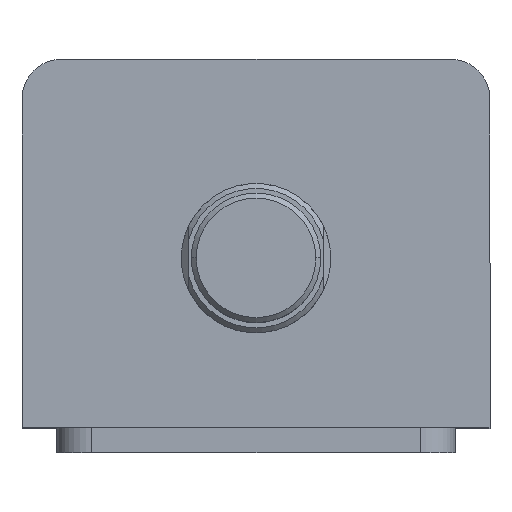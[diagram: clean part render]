
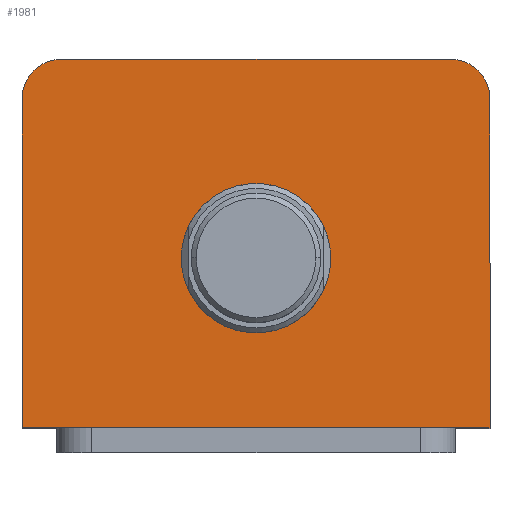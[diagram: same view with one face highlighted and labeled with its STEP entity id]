
A CAD part, top view. The second image highlights one B-rep face of the part: STEP entity #1981.
In plain terms, the highlighted planar face has unit normal (0, 0, 1).
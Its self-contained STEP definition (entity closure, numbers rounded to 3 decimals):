
#96 = CARTESIAN_POINT ( 'NONE',  ( 39., 37., 130. ) ) ;
#98 = CARTESIAN_POINT ( 'NONE',  ( -39., 37., 130. ) ) ;
#113 = CARTESIAN_POINT ( 'NONE',  ( -47., 29., 130. ) ) ;
#137 = CARTESIAN_POINT ( 'NONE',  ( -47., -37., 130. ) ) ;
#149 = CARTESIAN_POINT ( 'NONE',  ( 47., -37., 130. ) ) ;
#151 = CARTESIAN_POINT ( 'NONE',  ( 15., -3., 130. ) ) ;
#158 = CARTESIAN_POINT ( 'NONE',  ( 47., 29., 130. ) ) ;
#365 = CARTESIAN_POINT ( 'NONE',  ( 0., -3., 130. ) ) ;
#366 = DIRECTION ( 'NONE',  ( 0., 0., 1. ) ) ;
#367 = DIRECTION ( 'NONE',  ( 1., 0., 0. ) ) ;
#418 = CARTESIAN_POINT ( 'NONE',  ( 47., 37., 130. ) ) ;
#419 = DIRECTION ( 'NONE',  ( 0., 1., 0. ) ) ;
#559 = DIRECTION ( 'NONE',  ( 1., 0., 0. ) ) ;
#560 = DIRECTION ( 'NONE',  ( 0., 0., 1. ) ) ;
#561 = CARTESIAN_POINT ( 'NONE',  ( -39., 29., 130. ) ) ;
#584 = CARTESIAN_POINT ( 'NONE',  ( -47., 37., 130. ) ) ;
#613 = DIRECTION ( 'NONE',  ( 1., 0., 0. ) ) ;
#614 = DIRECTION ( 'NONE',  ( 0., 0., 1. ) ) ;
#616 = CARTESIAN_POINT ( 'NONE',  ( 39., 29., 130. ) ) ;
#617 = DIRECTION ( 'NONE',  ( -1., 0., 0. ) ) ;
#677 = LINE ( 'NONE', #2880, #3032 ) ;
#699 = EDGE_CURVE ( 'NONE', #2021, #2022, #1308, .T. ) ;
#712 = EDGE_CURVE ( 'NONE', #2104, #2021, #1367, .T. ) ;
#722 = EDGE_CURVE ( 'NONE', #2022, #2044, #1400, .T. ) ;
#728 = EDGE_CURVE ( 'NONE', #2079, #2093, #1391, .T. ) ;
#782 = EDGE_CURVE ( 'NONE', #2044, #2079, #677, .T. ) ;
#791 = EDGE_CURVE ( 'NONE', #2103, #1237, #1162, .T. ) ;
#835 = AXIS2_PLACEMENT_3D ( 'NONE', #616, #614, #613 ) ;
#843 = AXIS2_PLACEMENT_3D ( 'NONE', #561, #560, #559 ) ;
#870 = AXIS2_PLACEMENT_3D ( 'NONE', #2392, #2388, #2384 ) ;
#981 = AXIS2_PLACEMENT_3D ( 'NONE', #2147, #2139, #2138 ) ;
#1037 = AXIS2_PLACEMENT_3D ( 'NONE', #365, #366, #367 ) ;
#1162 = CIRCLE ( 'NONE', #870, 15. ) ;
#1237 = VERTEX_POINT ( 'NONE', #2231 ) ;
#1304 = VECTOR ( 'NONE', #617, 1000. ) ;
#1308 = LINE ( 'NONE', #584, #1304 ) ;
#1367 = CIRCLE ( 'NONE', #835, 8. ) ;
#1388 = VECTOR ( 'NONE', #3003, 1000. ) ;
#1391 = LINE ( 'NONE', #3008, #1388 ) ;
#1400 = CIRCLE ( 'NONE', #843, 8. ) ;
#1588 = FACE_BOUND ( 'NONE', #2496, .T. ) ;
#1595 = FACE_OUTER_BOUND ( 'NONE', #2497, .T. ) ;
#1698 = CIRCLE ( 'NONE', #1037, 15. ) ;
#1737 = LINE ( 'NONE', #418, #1740 ) ;
#1740 = VECTOR ( 'NONE', #419, 1000. ) ;
#1981 = ADVANCED_FACE ( 'NONE', ( #1588, #1595 ), #2152, .T. ) ;
#2021 = VERTEX_POINT ( 'NONE', #96 ) ;
#2022 = VERTEX_POINT ( 'NONE', #98 ) ;
#2044 = VERTEX_POINT ( 'NONE', #113 ) ;
#2079 = VERTEX_POINT ( 'NONE', #137 ) ;
#2093 = VERTEX_POINT ( 'NONE', #149 ) ;
#2103 = VERTEX_POINT ( 'NONE', #151 ) ;
#2104 = VERTEX_POINT ( 'NONE', #158 ) ;
#2138 = DIRECTION ( 'NONE',  ( 1., 0., 0. ) ) ;
#2139 = DIRECTION ( 'NONE',  ( 0., 0., 1. ) ) ;
#2147 = CARTESIAN_POINT ( 'NONE',  ( 0., 0., 130. ) ) ;
#2152 = PLANE ( 'NONE',  #981 ) ;
#2231 = CARTESIAN_POINT ( 'NONE',  ( -15., -3., 130. ) ) ;
#2384 = DIRECTION ( 'NONE',  ( 1., 0., 0. ) ) ;
#2388 = DIRECTION ( 'NONE',  ( 0., 0., 1. ) ) ;
#2392 = CARTESIAN_POINT ( 'NONE',  ( 0., -3., 130. ) ) ;
#2476 = DIRECTION ( 'NONE',  ( 0., -1., 0. ) ) ;
#2496 = EDGE_LOOP ( 'NONE', ( #2761, #2760 ) ) ;
#2497 = EDGE_LOOP ( 'NONE', ( #2759, #2758, #2757, #2756, #2755, #2754 ) ) ;
#2754 = ORIENTED_EDGE ( 'NONE', *, *, #712, .T. ) ;
#2755 = ORIENTED_EDGE ( 'NONE', *, *, #3115, .T. ) ;
#2756 = ORIENTED_EDGE ( 'NONE', *, *, #728, .T. ) ;
#2757 = ORIENTED_EDGE ( 'NONE', *, *, #782, .T. ) ;
#2758 = ORIENTED_EDGE ( 'NONE', *, *, #722, .T. ) ;
#2759 = ORIENTED_EDGE ( 'NONE', *, *, #699, .T. ) ;
#2760 = ORIENTED_EDGE ( 'NONE', *, *, #3091, .F. ) ;
#2761 = ORIENTED_EDGE ( 'NONE', *, *, #791, .F. ) ;
#2880 = CARTESIAN_POINT ( 'NONE',  ( -47., 37., 130. ) ) ;
#3003 = DIRECTION ( 'NONE',  ( 1., 0., 0. ) ) ;
#3008 = CARTESIAN_POINT ( 'NONE',  ( -47., -37., 130. ) ) ;
#3032 = VECTOR ( 'NONE', #2476, 1000. ) ;
#3091 = EDGE_CURVE ( 'NONE', #1237, #2103, #1698, .T. ) ;
#3115 = EDGE_CURVE ( 'NONE', #2093, #2104, #1737, .T. ) ;
